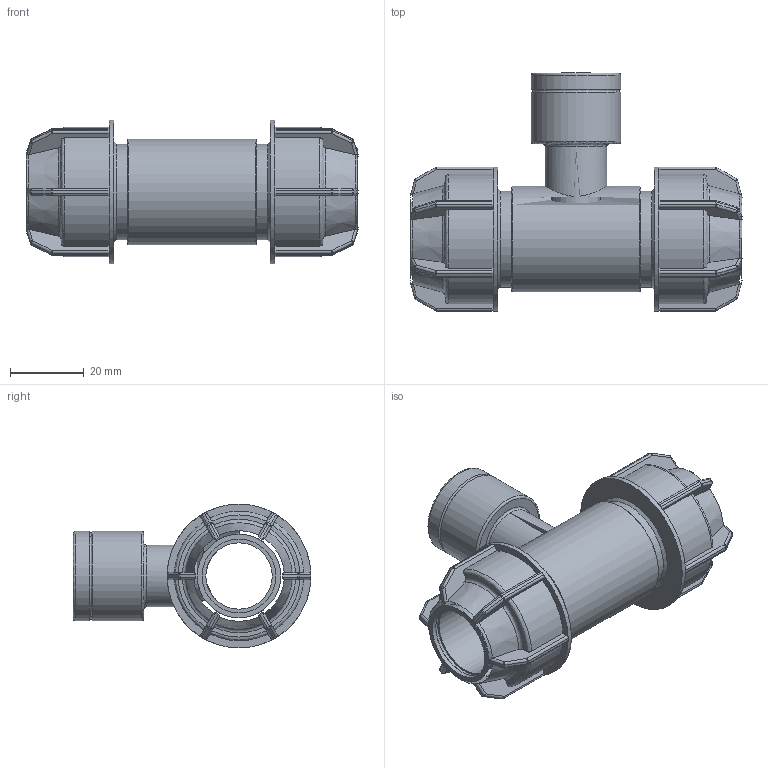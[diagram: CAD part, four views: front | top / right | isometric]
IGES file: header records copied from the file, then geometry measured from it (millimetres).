
Global section: file name: 041407020005.ipt; native system: Autodesk Inventor 2015; preprocessor: unknown; author: KIM; date: 20180409.130648; units: millimetre
Bounding box: 90 x 64.5 x 39 mm (x, y, z)
Volume: 45256.9 mm3; surface area: 22404.1 mm2
Topology: 1 solids, 1 shells, 418 faces, 1031 edges, 603 vertices
Faces by surface type: plane 199, cylinder 116, sphere 48, revolution 39, cone 16
Full cylindrical faces by diameter (mm): 16.768 x1, 24.22 x2, 26 x2, 28.6 x1, 39 x2
